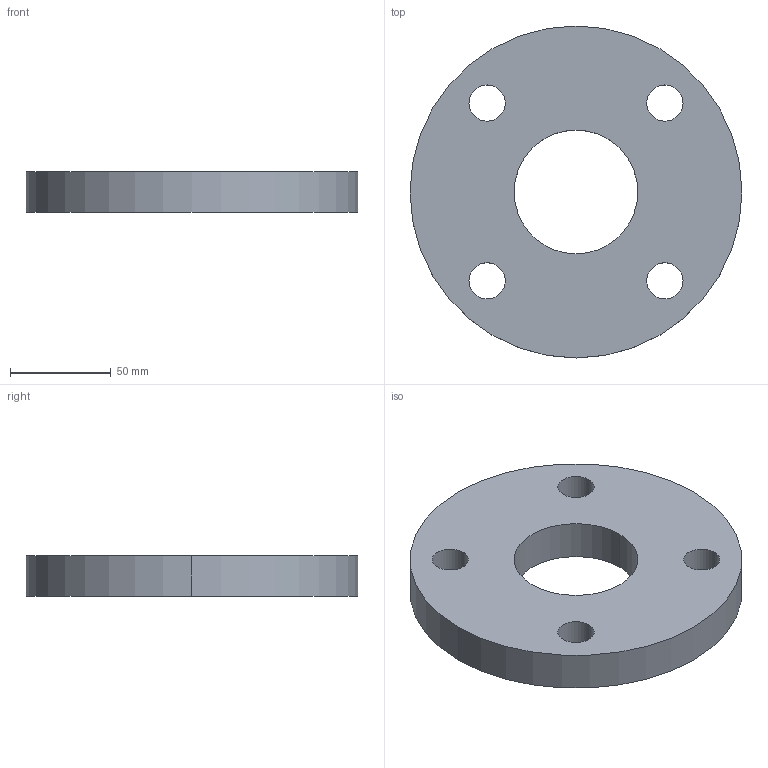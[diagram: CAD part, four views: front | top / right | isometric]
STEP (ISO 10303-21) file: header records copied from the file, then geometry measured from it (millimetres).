
FILE_DESCRIPTION (( 'STEP AP214' ), '1' );
FILE_NAME ('PN40 DN50 Type 01 - Type A Face.STEP', '2018-12-30T04:47:00', ( '' ), ( '' ), 'SwSTEP 2.0', 'SolidWorks 2019', '' );
FILE_SCHEMA (( 'AUTOMOTIVE_DESIGN' ));
Length unit declared in the file: millimetre
Products named in the file (1): PN40 DN50 Type 01 - Type A Face
Bounding box: 165 x 165 x 20 mm (x, y, z)
Volume: 347880.3 mm3; surface area: 53543.3 mm2
Topology: 1 solids, 1 shells, 14 faces, 36 edges, 24 vertices
Faces by surface type: cylinder 12, plane 2
Entity records: 498 total; most frequent: DIRECTION 90, CARTESIAN_POINT 75, ORIENTED_EDGE 72, AXIS2_PLACEMENT_3D 39, EDGE_CURVE 36, CIRCLE 24, VERTEX_POINT 24, EDGE_LOOP 24
